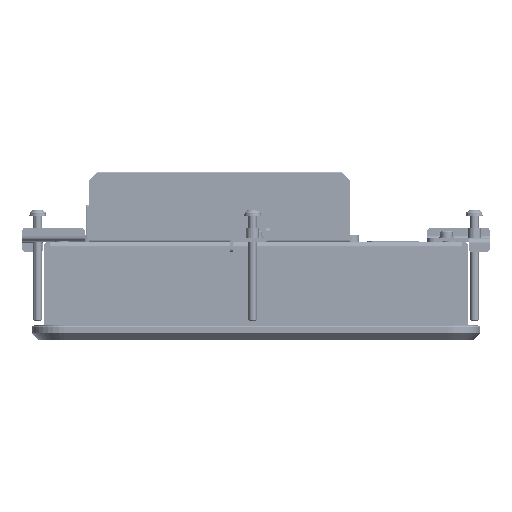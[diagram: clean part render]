
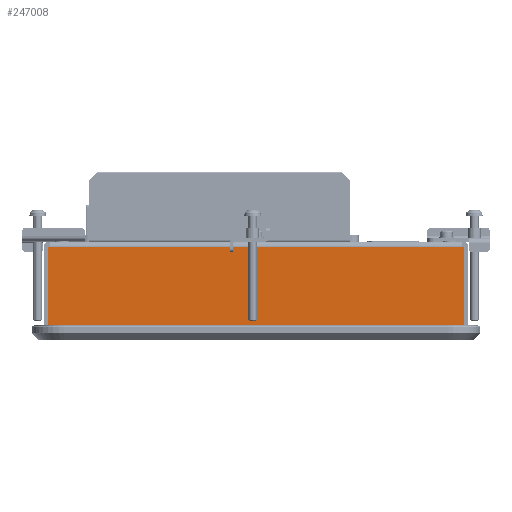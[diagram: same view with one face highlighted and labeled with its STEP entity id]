
A CAD part, left-side view. The second image highlights one B-rep face of the part: STEP entity #247008.
In plain terms, the highlighted planar face has unit normal (-1, 0, 0).
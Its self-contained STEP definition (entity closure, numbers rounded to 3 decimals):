
#19732=FACE_OUTER_BOUND('',#32809,.T.);
#32809=EDGE_LOOP('',(#202570,#202571,#202572,#202573,#202574,#202575,#202576,
#202577));
#62880=LINE('',#410894,#87438);
#62888=LINE('',#410913,#87446);
#62903=LINE('',#410946,#87461);
#62909=LINE('',#410963,#87467);
#62944=LINE('',#411041,#87502);
#62945=LINE('',#411044,#87503);
#62946=LINE('',#411046,#87504);
#62947=LINE('',#411047,#87505);
#87438=VECTOR('',#314537,10.);
#87446=VECTOR('',#314551,10.);
#87461=VECTOR('',#314576,10.);
#87467=VECTOR('',#314594,10.);
#87502=VECTOR('',#314657,10.);
#87503=VECTOR('',#314660,10.);
#87504=VECTOR('',#314661,10.);
#87505=VECTOR('',#314662,10.);
#108987=VERTEX_POINT('',#410890);
#108989=VERTEX_POINT('',#410893);
#108996=VERTEX_POINT('',#410909);
#108997=VERTEX_POINT('',#410911);
#109015=VERTEX_POINT('',#410962);
#109039=VERTEX_POINT('',#411029);
#109045=VERTEX_POINT('',#411043);
#109046=VERTEX_POINT('',#411045);
#141032=EDGE_CURVE('',#108987,#108989,#62880,.T.);
#141042=EDGE_CURVE('',#108996,#108997,#62888,.T.);
#141059=EDGE_CURVE('',#108996,#108987,#62903,.T.);
#141067=EDGE_CURVE('',#109015,#108989,#62909,.T.);
#141108=EDGE_CURVE('',#109015,#109039,#62944,.T.);
#141109=EDGE_CURVE('',#109045,#108997,#62945,.T.);
#141110=EDGE_CURVE('',#109046,#109045,#62946,.T.);
#141111=EDGE_CURVE('',#109039,#109046,#62947,.T.);
#202570=ORIENTED_EDGE('',*,*,#141032,.F.);
#202571=ORIENTED_EDGE('',*,*,#141059,.F.);
#202572=ORIENTED_EDGE('',*,*,#141042,.T.);
#202573=ORIENTED_EDGE('',*,*,#141109,.F.);
#202574=ORIENTED_EDGE('',*,*,#141110,.F.);
#202575=ORIENTED_EDGE('',*,*,#141111,.F.);
#202576=ORIENTED_EDGE('',*,*,#141108,.F.);
#202577=ORIENTED_EDGE('',*,*,#141067,.T.);
#224058=PLANE('',#263349);
#247008=ADVANCED_FACE('',(#19732),#224058,.T.);
#263349=AXIS2_PLACEMENT_3D('',#411042,#314658,#314659);
#314537=DIRECTION('',(0.,0.,1.));
#314551=DIRECTION('',(0.,0.,-1.));
#314576=DIRECTION('',(0.,-1.,0.));
#314594=DIRECTION('',(0.,1.,0.));
#314657=DIRECTION('',(0.,0.,-1.));
#314658=DIRECTION('center_axis',(-1.,0.,0.));
#314659=DIRECTION('ref_axis',(0.,0.,
-1.));
#314660=DIRECTION('',(0.,1.,0.));
#314661=DIRECTION('',(0.,0.,-1.));
#314662=DIRECTION('',(0.,-1.,0.));
#410890=CARTESIAN_POINT('',(-134.418,78.517,-42.981));
#410893=CARTESIAN_POINT('',(-134.418,78.517,-42.631));
#410894=CARTESIAN_POINT('',(-134.418,78.517,-53.499));
#410909=CARTESIAN_POINT('',(-134.418,79.667,-42.981));
#410911=CARTESIAN_POINT('',(-134.418,79.667,-88.631));
#410913=CARTESIAN_POINT('',(-134.418,79.667,-42.631));
#410946=CARTESIAN_POINT('',(-134.418,19.53,-42.981));
#410962=CARTESIAN_POINT('',(-134.418,-158.583,-42.631));
#410963=CARTESIAN_POINT('',(-134.418,-40.033,-42.631));
#411029=CARTESIAN_POINT('',(-134.418,-158.583,-42.981));
#411041=CARTESIAN_POINT('',(-134.418,-158.583,-53.499));
#411042=CARTESIAN_POINT('Origin',(-134.418,-40.033,-64.193));
#411043=CARTESIAN_POINT('',(-134.418,-159.733,-88.631));
#411044=CARTESIAN_POINT('',(-134.418,-1058.98,-88.631));
#411045=CARTESIAN_POINT('',(-134.418,-159.733,-42.981));
#411046=CARTESIAN_POINT('',(-134.418,-159.733,-42.631));
#411047=CARTESIAN_POINT('',(-134.418,-99.595,-42.981));
